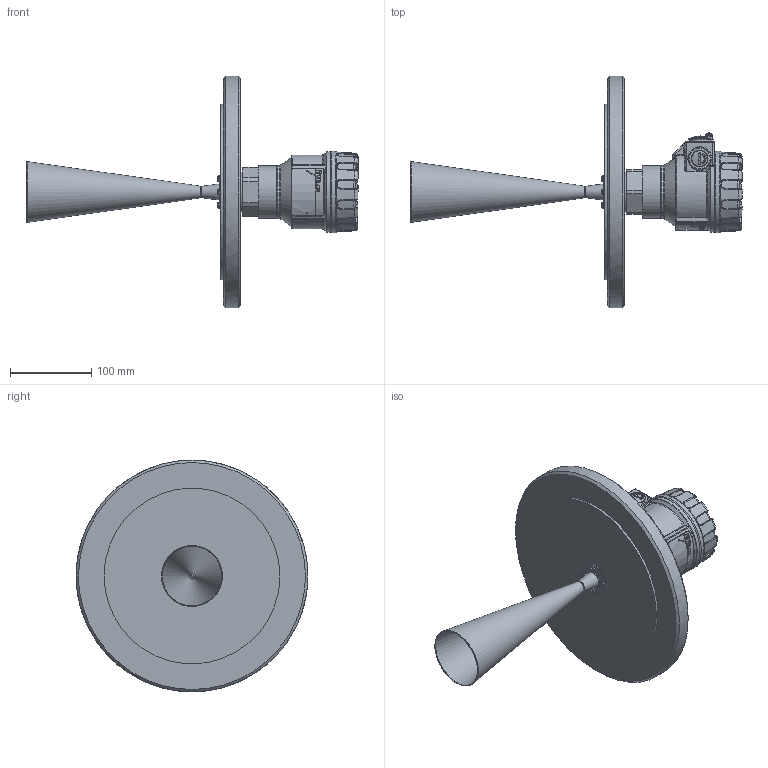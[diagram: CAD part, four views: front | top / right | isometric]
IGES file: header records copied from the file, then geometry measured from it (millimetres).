
Global section: file name: WES_180_Al; native system: Autodesk Inventor 2015; preprocessor: unknown; author: aantal; date: 20150306.113923; units: millimetre
Bounding box: 408.26 x 285 x 284.95 mm (x, y, z)
Volume: 2266508.7 mm3; surface area: 318159.4 mm2
Topology: 17 solids, 17 shells, 1252 faces, 3162 edges, 1994 vertices
Faces by surface type: bspline 1252
